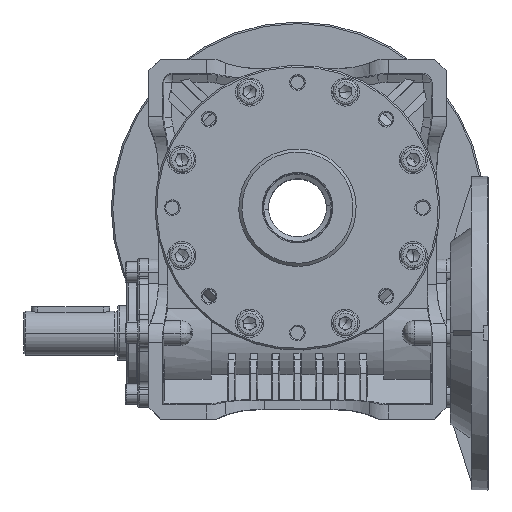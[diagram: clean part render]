
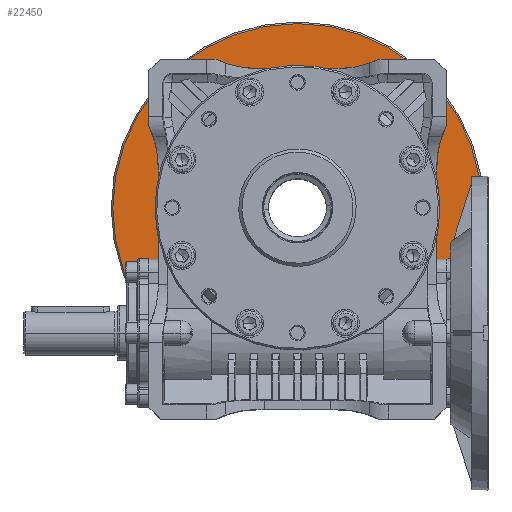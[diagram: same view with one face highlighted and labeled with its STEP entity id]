
A CAD part, top view. The second image highlights one B-rep face of the part: STEP entity #22450.
In plain terms, the highlighted planar face has unit normal (0, 0, 1).
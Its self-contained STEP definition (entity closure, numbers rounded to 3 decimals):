
#417 = AXIS2_PLACEMENT_3D ( 'NONE', #30525, #76056, #13923 ) ;
#767 = DIRECTION ( 'NONE',  ( 0., 0., -1. ) ) ;
#1566 = EDGE_LOOP ( 'NONE', ( #19635, #83733 ) ) ;
#1951 = CARTESIAN_POINT ( 'NONE',  ( 0., 0., -101. ) ) ;
#2839 = CARTESIAN_POINT ( 'NONE',  ( -74.246, 74.246, -101. ) ) ;
#2888 = EDGE_CURVE ( 'NONE', #94763, #4706, #8920, .T. ) ;
#3271 = ORIENTED_EDGE ( 'NONE', *, *, #75006, .T. ) ;
#4468 = DIRECTION ( 'NONE',  ( -1., 0., 0. ) ) ;
#4706 = VERTEX_POINT ( 'NONE', #12640 ) ;
#6481 = CIRCLE ( 'NONE', #102862, 7. ) ;
#6991 = FACE_BOUND ( 'NONE', #113420, .T. ) ;
#6993 = CIRCLE ( 'NONE', #46627, 91. ) ;
#7266 = CIRCLE ( 'NONE', #103608, 7. ) ;
#7998 = DIRECTION ( 'NONE',  ( -1., 0., 0. ) ) ;
#8214 = CARTESIAN_POINT ( 'NONE',  ( -74.246, -74.246, -101. ) ) ;
#8519 = CARTESIAN_POINT ( 'NONE',  ( -67.246, -74.246, -101. ) ) ;
#8904 = ORIENTED_EDGE ( 'NONE', *, *, #80035, .T. ) ;
#8920 = CIRCLE ( 'NONE', #65637, 91. ) ;
#9877 = CIRCLE ( 'NONE', #21241, 7. ) ;
#10274 = ORIENTED_EDGE ( 'NONE', *, *, #17763, .T. ) ;
#10670 = CARTESIAN_POINT ( 'NONE',  ( -81.246, 74.246, -101. ) ) ;
#11092 = DIRECTION ( 'NONE',  ( 0., 0., -1. ) ) ;
#11690 = DIRECTION ( 'NONE',  ( -1., 0., 0. ) ) ;
#12141 = ORIENTED_EDGE ( 'NONE', *, *, #55142, .T. ) ;
#12640 = CARTESIAN_POINT ( 'NONE',  ( -91., 0., -101. ) ) ;
#13923 = DIRECTION ( 'NONE',  ( -1., 0., 0. ) ) ;
#16069 = EDGE_LOOP ( 'NONE', ( #110013, #3271 ) ) ;
#17763 = EDGE_CURVE ( 'NONE', #68166, #107632, #6481, .T. ) ;
#19635 = ORIENTED_EDGE ( 'NONE', *, *, #39847, .T. ) ;
#21241 = AXIS2_PLACEMENT_3D ( 'NONE', #38454, #30748, #85157 ) ;
#22450 = ADVANCED_FACE ( 'NONE', ( #59018, #96351, #6991, #43620, #79129, #89214 ), #25301, .F. ) ;
#23302 = DIRECTION ( 'NONE',  ( 0., 0., -1. ) ) ;
#24211 = CIRCLE ( 'NONE', #77080, 7. ) ;
#24240 = DIRECTION ( 'NONE',  ( -1., 0., 0. ) ) ;
#24707 = CARTESIAN_POINT ( 'NONE',  ( 0., 91., -101. ) ) ;
#25301 = PLANE ( 'NONE',  #88514 ) ;
#25356 = DIRECTION ( 'NONE',  ( -1., 0., 0. ) ) ;
#27671 = CARTESIAN_POINT ( 'NONE',  ( 74.246, -74.246, -101. ) ) ;
#30121 = EDGE_LOOP ( 'NONE', ( #8904, #12141 ) ) ;
#30525 = CARTESIAN_POINT ( 'NONE',  ( 0., 0., -101. ) ) ;
#30748 = DIRECTION ( 'NONE',  ( 0., 0., -1. ) ) ;
#31579 = VERTEX_POINT ( 'NONE', #99375 ) ;
#33623 = VERTEX_POINT ( 'NONE', #10670 ) ;
#38454 = CARTESIAN_POINT ( 'NONE',  ( -74.246, 74.246, -101. ) ) ;
#38601 = CARTESIAN_POINT ( 'NONE',  ( 0., 0., -101. ) ) ;
#39847 = EDGE_CURVE ( 'NONE', #48762, #112261, #24211, .T. ) ;
#39866 = ORIENTED_EDGE ( 'NONE', *, *, #116170, .T. ) ;
#41384 = CIRCLE ( 'NONE', #48984, 118. ) ;
#42005 = DIRECTION ( 'NONE',  ( 0., 0., 1. ) ) ;
#43620 = FACE_BOUND ( 'NONE', #1566, .T. ) ;
#45324 = CARTESIAN_POINT ( 'NONE',  ( 67.246, 74.246, -101. ) ) ;
#46627 = AXIS2_PLACEMENT_3D ( 'NONE', #38601, #101396, #65806 ) ;
#47358 = CARTESIAN_POINT ( 'NONE',  ( 118., 0., -101. ) ) ;
#48762 = VERTEX_POINT ( 'NONE', #45324 ) ;
#48984 = AXIS2_PLACEMENT_3D ( 'NONE', #104797, #42005, #24240 ) ;
#49478 = CIRCLE ( 'NONE', #417, 118. ) ;
#49642 = ORIENTED_EDGE ( 'NONE', *, *, #73133, .T. ) ;
#52097 = VERTEX_POINT ( 'NONE', #110923 ) ;
#54083 = CIRCLE ( 'NONE', #80554, 7. ) ;
#55142 = EDGE_CURVE ( 'NONE', #104633, #52097, #41384, .T. ) ;
#56897 = DIRECTION ( 'NONE',  ( -1., 0., 0. ) ) ;
#59018 = FACE_OUTER_BOUND ( 'NONE', #30121, .T. ) ;
#59523 = VERTEX_POINT ( 'NONE', #8519 ) ;
#60345 = CARTESIAN_POINT ( 'NONE',  ( -74.246, -74.246, -101. ) ) ;
#60797 = DIRECTION ( 'NONE',  ( -1., 0., 0. ) ) ;
#62260 = CARTESIAN_POINT ( 'NONE',  ( 81.246, 74.246, -101. ) ) ;
#63924 = ORIENTED_EDGE ( 'NONE', *, *, #88067, .T. ) ;
#64338 = DIRECTION ( 'NONE',  ( 0., 0., -1. ) ) ;
#64626 = VERTEX_POINT ( 'NONE', #105383 ) ;
#65637 = AXIS2_PLACEMENT_3D ( 'NONE', #1951, #101359, #56897 ) ;
#65806 = DIRECTION ( 'NONE',  ( -1., 0., 0. ) ) ;
#68166 = VERTEX_POINT ( 'NONE', #88738 ) ;
#70108 = DIRECTION ( 'NONE',  ( 0., 0., -1. ) ) ;
#70804 = EDGE_CURVE ( 'NONE', #31579, #59523, #116642, .T. ) ;
#73057 = EDGE_CURVE ( 'NONE', #107632, #68166, #76797, .T. ) ;
#73133 = EDGE_CURVE ( 'NONE', #64626, #33623, #54083, .T. ) ;
#75006 = EDGE_CURVE ( 'NONE', #59523, #31579, #7266, .T. ) ;
#76056 = DIRECTION ( 'NONE',  ( 0., 0., 1. ) ) ;
#76797 = CIRCLE ( 'NONE', #93826, 7. ) ;
#77080 = AXIS2_PLACEMENT_3D ( 'NONE', #80161, #70108, #7998 ) ;
#78702 = DIRECTION ( 'NONE',  ( 0., 0., -1. ) ) ;
#78918 = CARTESIAN_POINT ( 'NONE',  ( 74.246, 74.246, -101. ) ) ;
#79129 = FACE_BOUND ( 'NONE', #101510, .T. ) ;
#80035 = EDGE_CURVE ( 'NONE', #52097, #104633, #49478, .T. ) ;
#80161 = CARTESIAN_POINT ( 'NONE',  ( 74.246, 74.246, -101. ) ) ;
#80366 = DIRECTION ( 'NONE',  ( -1., 0., 0. ) ) ;
#80554 = AXIS2_PLACEMENT_3D ( 'NONE', #2839, #11092, #11690 ) ;
#80712 = AXIS2_PLACEMENT_3D ( 'NONE', #60345, #78702, #115422 ) ;
#80945 = EDGE_LOOP ( 'NONE', ( #63924, #97720 ) ) ;
#82910 = CARTESIAN_POINT ( 'NONE',  ( 74.246, -74.246, -101. ) ) ;
#83733 = ORIENTED_EDGE ( 'NONE', *, *, #116935, .T. ) ;
#85157 = DIRECTION ( 'NONE',  ( -1., 0., 0. ) ) ;
#85603 = AXIS2_PLACEMENT_3D ( 'NONE', #78918, #23302, #4468 ) ;
#88067 = EDGE_CURVE ( 'NONE', #4706, #94763, #6993, .T. ) ;
#88514 = AXIS2_PLACEMENT_3D ( 'NONE', #24707, #114671, #60797 ) ;
#88738 = CARTESIAN_POINT ( 'NONE',  ( 81.246, -74.246, -101. ) ) ;
#89214 = FACE_BOUND ( 'NONE', #80945, .T. ) ;
#90343 = ORIENTED_EDGE ( 'NONE', *, *, #73057, .T. ) ;
#90423 = DIRECTION ( 'NONE',  ( 0., 0., -1. ) ) ;
#90667 = DIRECTION ( 'NONE',  ( -1., 0., 0. ) ) ;
#93826 = AXIS2_PLACEMENT_3D ( 'NONE', #27671, #90423, #25356 ) ;
#94763 = VERTEX_POINT ( 'NONE', #114383 ) ;
#96351 = FACE_BOUND ( 'NONE', #16069, .T. ) ;
#97720 = ORIENTED_EDGE ( 'NONE', *, *, #2888, .T. ) ;
#99375 = CARTESIAN_POINT ( 'NONE',  ( -81.246, -74.246, -101. ) ) ;
#101359 = DIRECTION ( 'NONE',  ( 0., 0., -1. ) ) ;
#101396 = DIRECTION ( 'NONE',  ( 0., 0., -1. ) ) ;
#101510 = EDGE_LOOP ( 'NONE', ( #39866, #49642 ) ) ;
#102862 = AXIS2_PLACEMENT_3D ( 'NONE', #82910, #767, #90667 ) ;
#103608 = AXIS2_PLACEMENT_3D ( 'NONE', #8214, #64338, #80366 ) ;
#104633 = VERTEX_POINT ( 'NONE', #47358 ) ;
#104797 = CARTESIAN_POINT ( 'NONE',  ( 0., 0., -101. ) ) ;
#105383 = CARTESIAN_POINT ( 'NONE',  ( -67.246, 74.246, -101. ) ) ;
#107632 = VERTEX_POINT ( 'NONE', #113982 ) ;
#110013 = ORIENTED_EDGE ( 'NONE', *, *, #70804, .T. ) ;
#110923 = CARTESIAN_POINT ( 'NONE',  ( -118., 0., -101. ) ) ;
#112261 = VERTEX_POINT ( 'NONE', #62260 ) ;
#113420 = EDGE_LOOP ( 'NONE', ( #90343, #10274 ) ) ;
#113982 = CARTESIAN_POINT ( 'NONE',  ( 67.246, -74.246, -101. ) ) ;
#114023 = CIRCLE ( 'NONE', #85603, 7. ) ;
#114383 = CARTESIAN_POINT ( 'NONE',  ( 91., 0., -101. ) ) ;
#114671 = DIRECTION ( 'NONE',  ( 0., 0., -1. ) ) ;
#115422 = DIRECTION ( 'NONE',  ( -1., 0., 0. ) ) ;
#116170 = EDGE_CURVE ( 'NONE', #33623, #64626, #9877, .T. ) ;
#116642 = CIRCLE ( 'NONE', #80712, 7. ) ;
#116935 = EDGE_CURVE ( 'NONE', #112261, #48762, #114023, .T. ) ;
